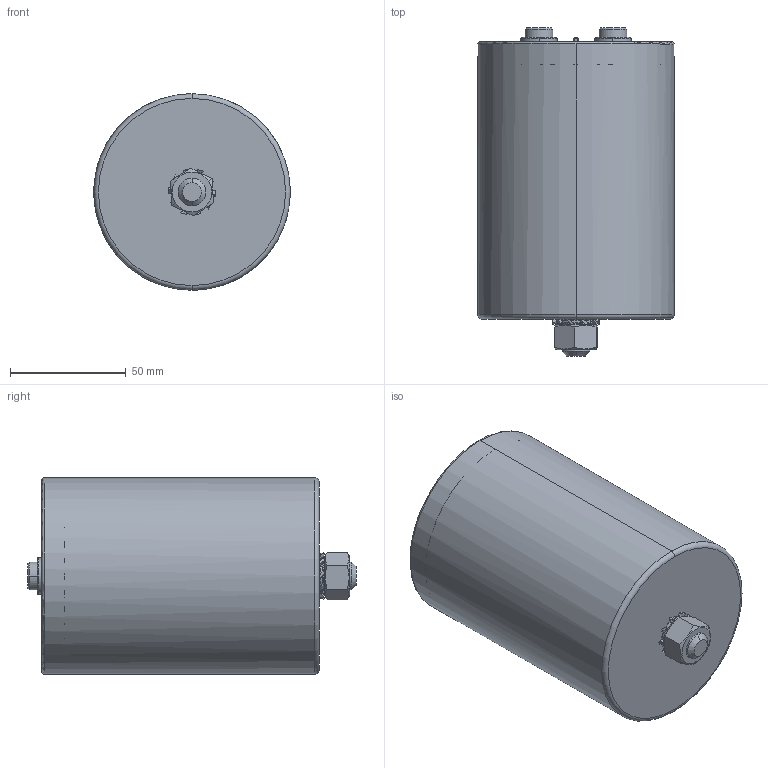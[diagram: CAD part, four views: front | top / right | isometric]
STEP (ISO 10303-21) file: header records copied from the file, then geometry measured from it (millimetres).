
FILE_DESCRIPTION (( 'STEP AP214' ), '1' );
FILE_NAME ('B25695 D85 Hc120 Ht126.STEP', '2024-06-04T08:52:08', ( '' ), ( '' ), 'SwSTEP 2.0', 'SolidWorks 2019', '' );
FILE_SCHEMA (( 'AUTOMOTIVE_DESIGN' ));
Length unit declared in the file: millimetre
Products named in the file (1): B25695 D85 Hc120 Ht126
Bounding box: 85 x 142 x 85 mm (x, y, z)
Volume: 110204.9 mm3; surface area: 101034.9 mm2
Topology: 1 solids, 2 shells, 275 faces, 754 edges, 488 vertices
Faces by surface type: plane 88, cylinder 70, cone 47, bspline 40, torus 30
Entity records: 9636 total; most frequent: CARTESIAN_POINT 3070, ORIENTED_EDGE 1500, DIRECTION 1212, EDGE_CURVE 750, VERTEX_POINT 488, AXIS2_PLACEMENT_3D 472, EDGE_LOOP 304, FACE_OUTER_BOUND 275
